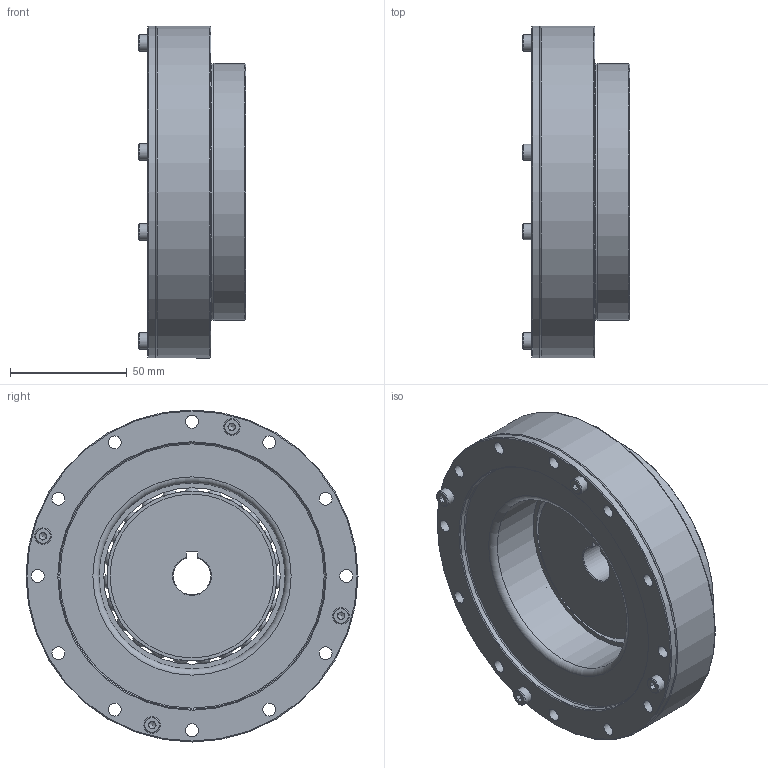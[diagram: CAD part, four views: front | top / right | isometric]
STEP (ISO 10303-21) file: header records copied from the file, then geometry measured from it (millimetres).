
FILE_DESCRIPTION(/* description */ (''),/* implementation_level */ '2;1');
FILE_NAME(/* name */ 'Getriebeset_HTG_Plus_BG81_FK.stp',/* time_stamp */ '2026-03-10T08:46:56+01:00',/* author */ (''),/* organization */ (''),/* preprocessor_version */ 'ST-DEVELOPER v19.4',/* originating_system */ 'SIEMENS PLM Software NX2212.9120',/* authorisation */ '');
FILE_SCHEMA (('AUTOMOTIVE_DESIGN { 1 0 10303 214 3 1 1 1 }'));
Length unit declared in the file: millimetre
Products named in the file (1): Getriebeset_HTG_Plus_BG81_FK
Bounding box: 46 x 142 x 142 mm (x, y, z)
Volume: 365041.8 mm3; surface area: 188080 mm2
Topology: 44 solids, 44 shells, 543 faces, 1380 edges, 904 vertices
Faces by surface type: plane 185, cylinder 176, cone 113, sphere 27, torus 21, bspline 21
Full cylindrical faces by diameter (mm): 3 x4, 3.4 x8, 4 x8, 4.3 x16, 4.5 x8, 5.5 x40, 7 x8, 8 x4, 22.5 x1, 52 x1, 54.06 x1, 56 x1, 59 x2, 63 x1, 63.3 x2, 70 x1, 75.5 x2, 79.6 x2, 80.74 x1, 81.5 x1, 83.21 x1, 84 x1, 88 x2, 88.1 x1, 92.5 x1, 101.2 x1, 109.991 x1, 110 x2, 112 x2, 114 x3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
Entity records: 16348 total; most frequent: CARTESIAN_POINT 4870, DIRECTION 2315, ORIENTED_EDGE 1788, AXIS2_PLACEMENT_3D 1050, EDGE_LOOP 904, EDGE_CURVE 894, FACE_BOUND 741, VERTEX_POINT 741
